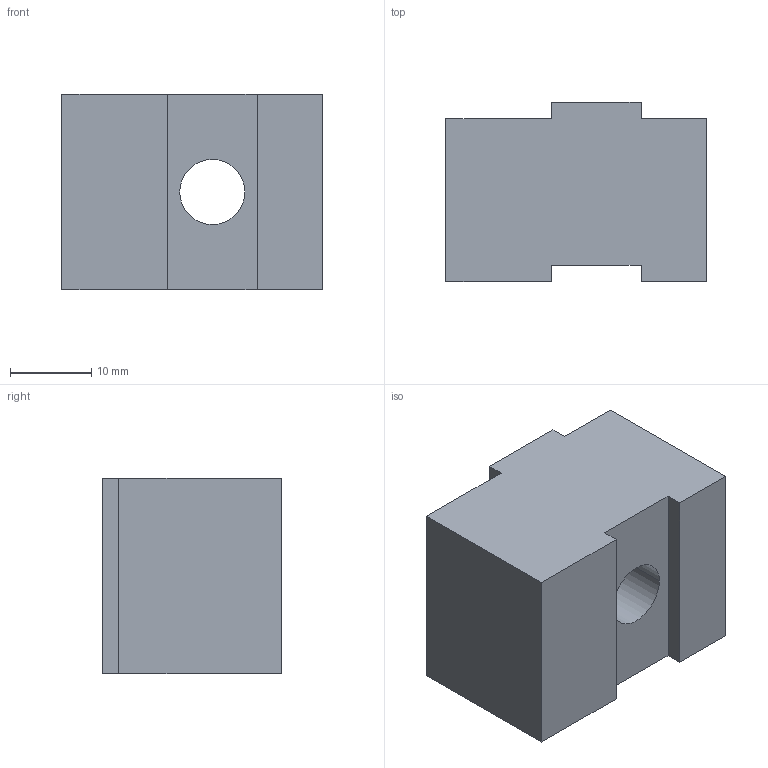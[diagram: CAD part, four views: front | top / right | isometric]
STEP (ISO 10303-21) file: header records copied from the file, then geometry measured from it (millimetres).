
FILE_DESCRIPTION (( 'STEP AP214' ), '1' );
FILE_NAME ('FGRD 20.step', '2017-04-05T07:39:28', ( '' ), ( '' ), 'SwSTEP 2.0', 'SolidWorks 2015', '' );
FILE_SCHEMA (( 'AUTOMOTIVE_DESIGN' ));
Length unit declared in the file: millimetre
Products named in the file (1): FGRD 20
Bounding box: 32 x 22 x 24 mm (x, y, z)
Volume: 14354.7 mm3; surface area: 4370.1 mm2
Topology: 1 solids, 1 shells, 16 faces, 42 edges, 28 vertices
Faces by surface type: plane 14, cylinder 2
Entity records: 528 total; most frequent: CARTESIAN_POINT 87, ORIENTED_EDGE 84, DIRECTION 80, EDGE_CURVE 42, VECTOR 38, LINE 38, VERTEX_POINT 28, AXIS2_PLACEMENT_3D 21
